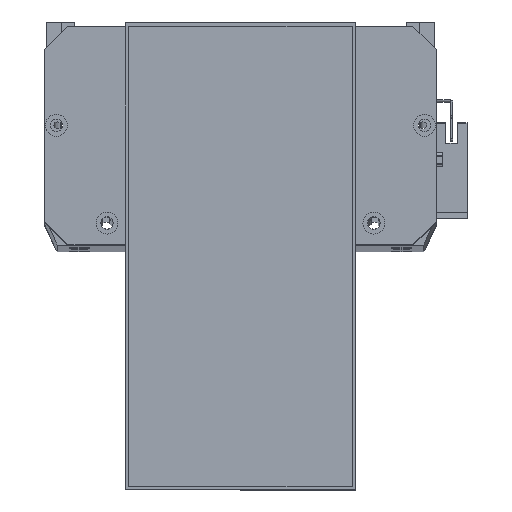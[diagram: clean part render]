
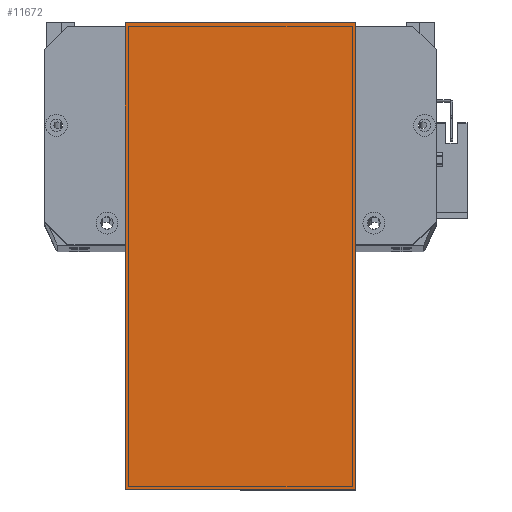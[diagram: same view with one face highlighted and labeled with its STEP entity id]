
A CAD part, top view. The second image highlights one B-rep face of the part: STEP entity #11672.
In plain terms, the highlighted planar face has unit normal (0, 0, 1) as drawn and (0, 0, -1) by its records, which use the part's own axes.
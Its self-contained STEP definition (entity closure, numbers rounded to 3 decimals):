
#2057 = VERTEX_POINT ( 'NONE', #6574 ) ;
#2109 = DIRECTION ( 'NONE',  ( 1., 0., 0. ) ) ;
#2129 = DIRECTION ( 'NONE',  ( 1., 0., 0. ) ) ;
#2699 = VECTOR ( 'NONE', #10334, 1000. ) ;
#2749 = ORIENTED_EDGE ( 'NONE', *, *, #4127, .F. ) ;
#3362 = VERTEX_POINT ( 'NONE', #29546 ) ;
#4127 = EDGE_CURVE ( 'NONE', #3362, #18139, #28311, .T. ) ;
#4885 = CARTESIAN_POINT ( 'NONE',  ( 0., 0., 0. ) ) ;
#6574 = CARTESIAN_POINT ( 'NONE',  ( 0., 119.5, 0. ) ) ;
#7255 = DIRECTION ( 'NONE',  ( -1., 0., 0. ) ) ;
#7654 = EDGE_CURVE ( 'NONE', #2057, #17270, #9634, .T. ) ;
#7757 = ORIENTED_EDGE ( 'NONE', *, *, #7654, .F. ) ;
#8759 = EDGE_CURVE ( 'NONE', #17270, #3362, #29849, .T. ) ;
#9547 = DIRECTION ( 'NONE',  ( 0., 1., 0. ) ) ;
#9634 = LINE ( 'NONE', #15149, #2699 ) ;
#10232 = CARTESIAN_POINT ( 'NONE',  ( 0., 19.5, 0. ) ) ;
#10261 = VECTOR ( 'NONE', #9547, 1000. ) ;
#10334 = DIRECTION ( 'NONE',  ( 0., -1., 0. ) ) ;
#10903 = ORIENTED_EDGE ( 'NONE', *, *, #21104, .T. ) ;
#11045 = VECTOR ( 'NONE', #2129, 1000. ) ;
#11672 = ADVANCED_FACE ( 'NONE', ( #24767 ), #16586, .T. ) ;
#12058 = EDGE_LOOP ( 'NONE', ( #14120, #7757, #10903, #2749 ) ) ;
#12499 = AXIS2_PLACEMENT_3D ( 'NONE', #4885, #21392, #7255 ) ;
#14120 = ORIENTED_EDGE ( 'NONE', *, *, #8759, .F. ) ;
#15149 = CARTESIAN_POINT ( 'NONE',  ( 0., 0., 0. ) ) ;
#16586 = PLANE ( 'NONE',  #12499 ) ;
#17270 = VERTEX_POINT ( 'NONE', #10232 ) ;
#18139 = VERTEX_POINT ( 'NONE', #19037 ) ;
#18524 = CARTESIAN_POINT ( 'NONE',  ( -12., 19.5, 0. ) ) ;
#19037 = CARTESIAN_POINT ( 'NONE',  ( 203., 119.5, 0. ) ) ;
#21104 = EDGE_CURVE ( 'NONE', #2057, #18139, #23782, .T. ) ;
#21392 = DIRECTION ( 'NONE',  ( 0., 0., -1. ) ) ;
#23133 = CARTESIAN_POINT ( 'NONE',  ( 203., 0., 0. ) ) ;
#23782 = LINE ( 'NONE', #30250, #30034 ) ;
#24767 = FACE_OUTER_BOUND ( 'NONE', #12058, .T. ) ;
#28311 = LINE ( 'NONE', #23133, #10261 ) ;
#29546 = CARTESIAN_POINT ( 'NONE',  ( 203., 19.5, 0. ) ) ;
#29849 = LINE ( 'NONE', #18524, #11045 ) ;
#30034 = VECTOR ( 'NONE', #2109, 1000. ) ;
#30250 = CARTESIAN_POINT ( 'NONE',  ( -12., 119.5, 0. ) ) ;
